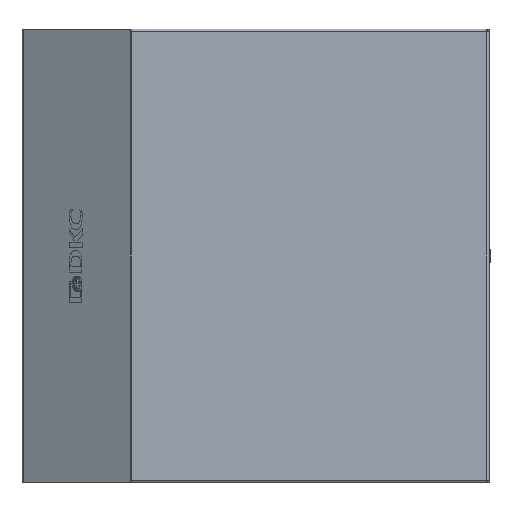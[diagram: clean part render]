
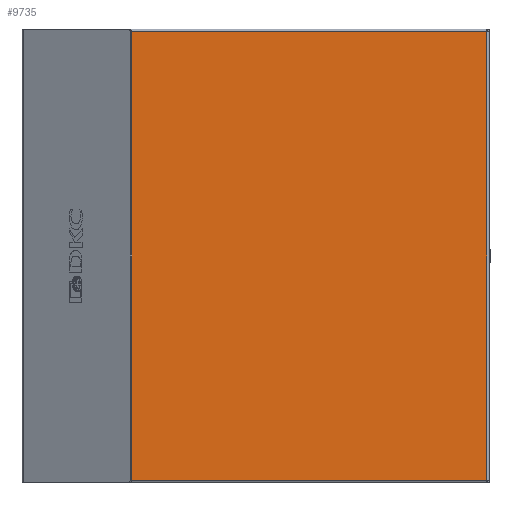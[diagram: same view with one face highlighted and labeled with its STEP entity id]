
A CAD part, left-side view. The second image highlights one B-rep face of the part: STEP entity #9735.
In plain terms, the highlighted planar face has unit normal (-1, 0, 0).
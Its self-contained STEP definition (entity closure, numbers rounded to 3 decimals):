
#571 = DIRECTION ( 'NONE',  ( 0., -1., 0. ) ) ;
#604 = CARTESIAN_POINT ( 'NONE',  ( -1.5, 267.511, -167.9 ) ) ;
#605 = LINE ( 'NONE', #604, #656 ) ;
#656 = VECTOR ( 'NONE', #571, 1000. ) ;
#759 = VECTOR ( 'NONE', #805, 1000. ) ;
#805 = DIRECTION ( 'NONE',  ( 0., 0., -1. ) ) ;
#815 = CARTESIAN_POINT ( 'NONE',  ( -1.5, 266.472, 170. ) ) ;
#837 = LINE ( 'NONE', #815, #759 ) ;
#1856 = CARTESIAN_POINT ( 'NONE',  ( -1.5, 266.472, 167.9 ) ) ;
#2046 = AXIS2_PLACEMENT_3D ( 'NONE', #10045, #10032, #10028 ) ;
#3640 = CARTESIAN_POINT ( 'NONE',  ( -1.5, 0.6, -167.9 ) ) ;
#3649 = VERTEX_POINT ( 'NONE', #8913 ) ;
#4737 = ORIENTED_EDGE ( 'NONE', *, *, #7036, .T. ) ;
#5401 = ORIENTED_EDGE ( 'NONE', *, *, #5655, .T. ) ;
#5595 = EDGE_CURVE ( 'NONE', #3649, #11199, #13766, .T. ) ;
#5655 = EDGE_CURVE ( 'NONE', #3649, #13496, #13652, .T. ) ;
#6449 = ORIENTED_EDGE ( 'NONE', *, *, #7052, .T. ) ;
#7036 = EDGE_CURVE ( 'NONE', #13496, #9423, #837, .T. ) ;
#7052 = EDGE_CURVE ( 'NONE', #9423, #11199, #605, .T. ) ;
#8848 = EDGE_LOOP ( 'NONE', ( #6449, #13222, #5401, #4737 ) ) ;
#8913 = CARTESIAN_POINT ( 'NONE',  ( -1.5, 0.6, 167.9 ) ) ;
#9423 = VERTEX_POINT ( 'NONE', #11528 ) ;
#9735 = ADVANCED_FACE ( 'NONE', ( #10052 ), #10049, .F. ) ;
#10028 = DIRECTION ( 'NONE',  ( 0., 1., 0. ) ) ;
#10032 = DIRECTION ( 'NONE',  ( 1., 0., 0. ) ) ;
#10035 = VECTOR ( 'NONE', #13601, 1000. ) ;
#10045 = CARTESIAN_POINT ( 'NONE',  ( -1.5, 0., 170. ) ) ;
#10049 = PLANE ( 'NONE',  #2046 ) ;
#10052 = FACE_OUTER_BOUND ( 'NONE', #8848, .T. ) ;
#10289 = VECTOR ( 'NONE', #13751, 1000. ) ;
#11199 = VERTEX_POINT ( 'NONE', #3640 ) ;
#11528 = CARTESIAN_POINT ( 'NONE',  ( -1.5, 266.472, -167.9 ) ) ;
#13222 = ORIENTED_EDGE ( 'NONE', *, *, #5595, .F. ) ;
#13496 = VERTEX_POINT ( 'NONE', #1856 ) ;
#13601 = DIRECTION ( 'NONE',  ( 0., 1., 0. ) ) ;
#13624 = CARTESIAN_POINT ( 'NONE',  ( -1.5, 0.6, 167.9 ) ) ;
#13652 = LINE ( 'NONE', #13624, #10035 ) ;
#13751 = DIRECTION ( 'NONE',  ( 0., 0., -1. ) ) ;
#13753 = CARTESIAN_POINT ( 'NONE',  ( -1.5, 0.6, 170. ) ) ;
#13766 = LINE ( 'NONE', #13753, #10289 ) ;
